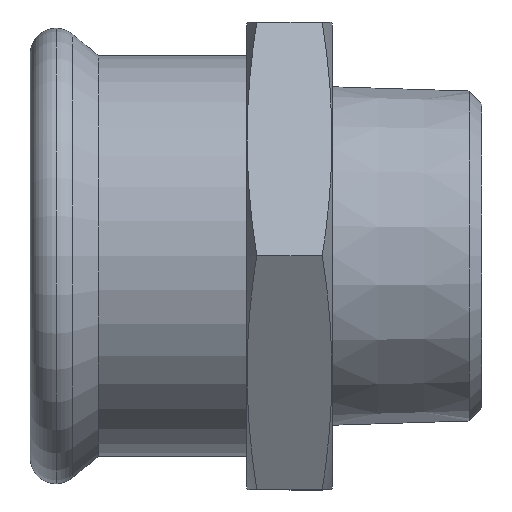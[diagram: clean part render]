
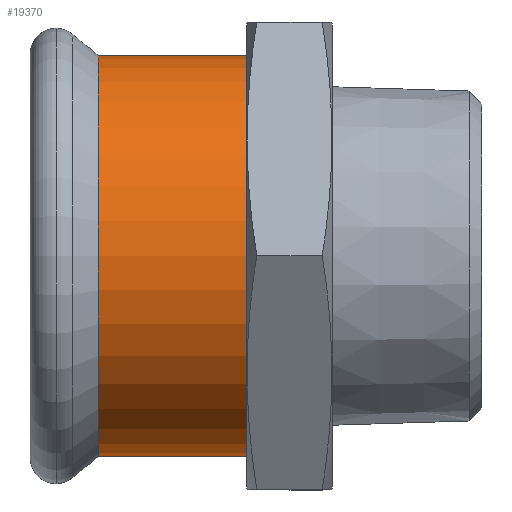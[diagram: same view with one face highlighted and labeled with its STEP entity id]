
A CAD part, top view. The second image highlights one B-rep face of the part: STEP entity #19370.
In plain terms, the highlighted cylindrical face has radius 28.7 mm (diameter 57.4 mm), a partial arc.
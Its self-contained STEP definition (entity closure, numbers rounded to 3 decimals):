
#1390=CARTESIAN_POINT('',(-87.871,-571.484,
0.));
#1400=DIRECTION('',(1.,0.,0.));
#1410=DIRECTION('',(0.,-1.,0.));
#1420=AXIS2_PLACEMENT_3D('',#1390,#1400,#1410);
#1430=CIRCLE('',#1420,28.7);
#1440=CARTESIAN_POINT('',(-87.871,-600.184,
0.));
#1450=VERTEX_POINT('',#1440);
#1460=CARTESIAN_POINT('',(-87.871,-542.784,
0.));
#1470=VERTEX_POINT('',#1460);
#1500=EDGE_CURVE('',#1470,#1450,#1430,.T.);
#18820=CARTESIAN_POINT('',(-109.116,-542.784,
0.));
#18830=VERTEX_POINT('',#18820);
#19010=CARTESIAN_POINT('',(-109.116,-600.184,
0.));
#19020=VERTEX_POINT('',#19010);
#19050=CARTESIAN_POINT('',(-109.116,-571.484,
0.));
#19060=DIRECTION('',(-1.,0.,0.));
#19070=DIRECTION('',(0.,-1.,0.));
#19080=AXIS2_PLACEMENT_3D('',#19050,#19060,#19070);
#19090=CIRCLE('',#19080,28.7);
#19150=CARTESIAN_POINT('',(-96.221,-571.484,
0.));
#19160=DIRECTION('',(1.,0.,0.));
#19170=DIRECTION('',(0.,-1.,0.));
#19180=AXIS2_PLACEMENT_3D('',#19150,#19160,#19170);
#19190=CYLINDRICAL_SURFACE('',#19180,28.7);
#19200=CARTESIAN_POINT('',(-96.221,-600.184,
0.));
#19210=DIRECTION('',(1.,0.,0.));
#19220=VECTOR('',#19210,1.);
#19230=LINE('',#19200,#19220);
#19240=EDGE_CURVE('',#19020,#1450,#19230,.T.);
#19250=ORIENTED_EDGE('',*,*,#19240,.T.);
#19260=EDGE_CURVE('',#19020,#18830,#19090,.T.);
#19270=ORIENTED_EDGE('',*,*,#19260,.F.);
#19280=CARTESIAN_POINT('',(-96.221,-542.784,
0.));
#19290=DIRECTION('',(1.,0.,0.));
#19300=VECTOR('',#19290,1.);
#19310=LINE('',#19280,#19300);
#19320=EDGE_CURVE('',#18830,#1470,#19310,.T.);
#19330=ORIENTED_EDGE('',*,*,#19320,.F.);
#19340=ORIENTED_EDGE('',*,*,#1500,.F.);
#19350=EDGE_LOOP('',(#19340,#19330,#19270,#19250));
#19360=FACE_OUTER_BOUND('',#19350,.T.);
#19370=ADVANCED_FACE('',(#19360),#19190,.T.);
